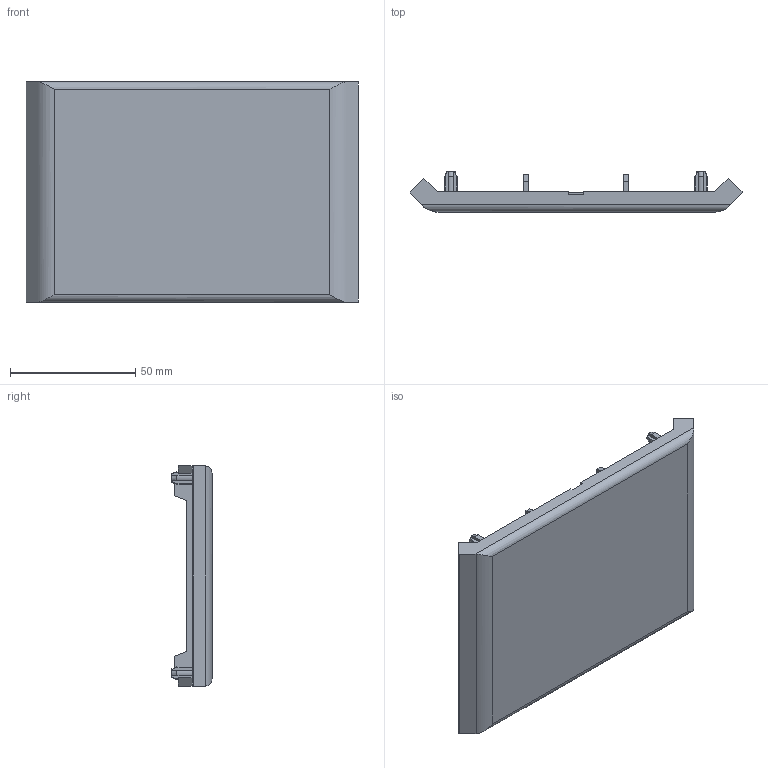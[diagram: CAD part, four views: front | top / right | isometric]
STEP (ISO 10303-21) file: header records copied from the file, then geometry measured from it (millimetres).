
FILE_DESCRIPTION (( 'STEP AP214' ), '1' );
FILE_NAME ('BE FBFA 88B.step', '2017-04-05T07:53:25', ( '' ), ( '' ), 'SwSTEP 2.0', 'SolidWorks 2015', '' );
FILE_SCHEMA (( 'AUTOMOTIVE_DESIGN' ));
Length unit declared in the file: millimetre
Products named in the file (1): BE FBFA 88B
Bounding box: 132.6 x 16 x 88 mm (x, y, z)
Volume: 42471.3 mm3; surface area: 30833.1 mm2
Topology: 1 solids, 1 shells, 142 faces, 412 edges, 272 vertices
Faces by surface type: plane 96, cylinder 26, cone 20
Entity records: 4750 total; most frequent: CARTESIAN_POINT 991, ORIENTED_EDGE 824, DIRECTION 722, EDGE_CURVE 412, LINE 308, VECTOR 308, VERTEX_POINT 272, AXIS2_PLACEMENT_3D 207
